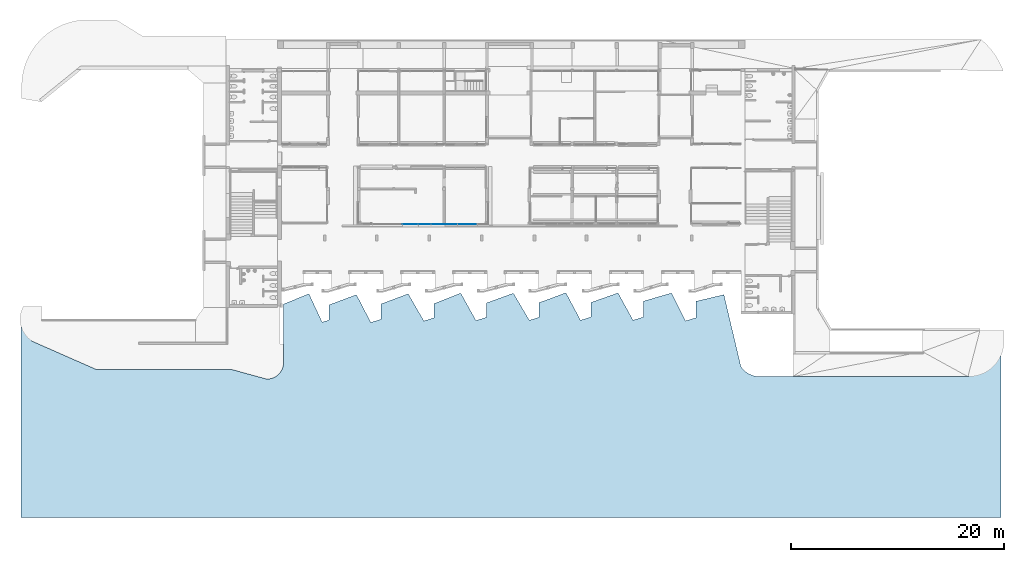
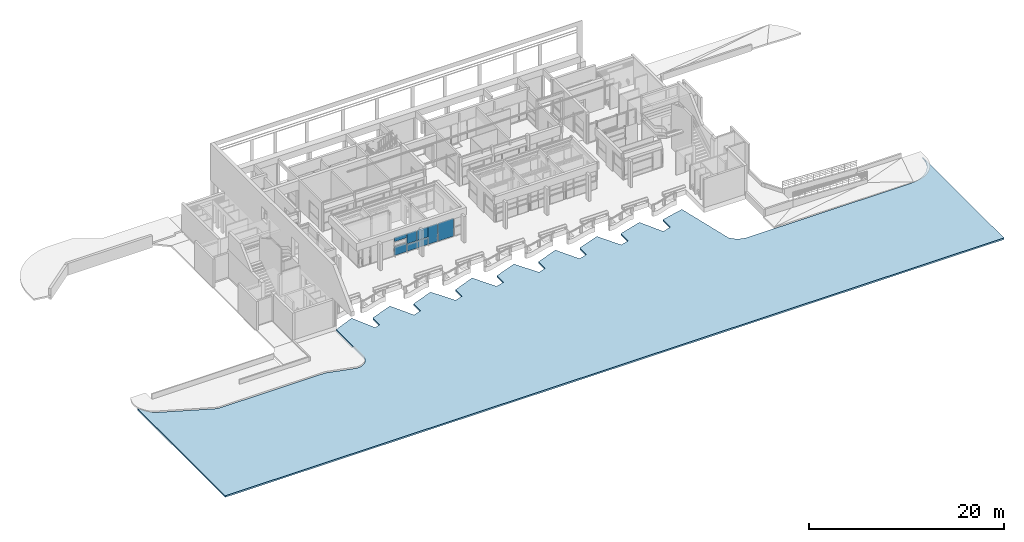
# One storey, part 34 of 117: 7 plates, 1 slab, 1 element without a shape of its own.
"""IFC4 building model written with IfcOpenShell, lengths in metres."""

from ifc_helpers import new_model, entity, si_unit, converted_unit, derived_unit, direction, frame, origin, place, context, subcontext, project, spatial, line, arc, indexed_curve, outline, extrude, source, transform, mapped, material, type_object, type_shapes, element, aggregate, save


model = new_model("IFC4")

# Units and contexts
model_context = context("Model", 3, precision=1e-05, world=origin(), true_north=direction((6.123031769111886e-17, 1.0)))
body_context = subcontext(model_context, "Body", "Model", "MODEL_VIEW")
ifc_project = project(units=[si_unit("LENGTHUNIT", "METRE"), si_unit("AREAUNIT", "SQUARE_METRE"), si_unit("VOLUMEUNIT", "CUBIC_METRE"), converted_unit("PLANEANGLEUNIT", "DEGREE", entity("IfcRatioMeasure", 0.017453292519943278), si_unit("PLANEANGLEUNIT", "RADIAN"), dimensions=[0, 0, 0, 0, 0, 0, 0]), si_unit("MASSUNIT", "GRAM", prefix="KILO"), derived_unit("MASSDENSITYUNIT", [(si_unit("MASSUNIT", "GRAM", prefix="KILO"), 1), (si_unit("LENGTHUNIT", "METRE"), -3)]), derived_unit("MOMENTOFINERTIAUNIT", [(si_unit("LENGTHUNIT", "METRE"), 4)]), si_unit("TIMEUNIT", "SECOND"), si_unit("FREQUENCYUNIT", "HERTZ"), si_unit("THERMODYNAMICTEMPERATUREUNIT", "DEGREE_CELSIUS"), derived_unit("THERMALTRANSMITTANCEUNIT", [(si_unit("MASSUNIT", "GRAM", prefix="KILO"), 1), (si_unit("THERMODYNAMICTEMPERATUREUNIT", "KELVIN"), -1), (si_unit("TIMEUNIT", "SECOND"), -3)]), derived_unit("VOLUMETRICFLOWRATEUNIT", [(si_unit("LENGTHUNIT", "METRE"), 3), (si_unit("TIMEUNIT", "SECOND"), -1)]), derived_unit("MASSFLOWRATEUNIT", [(si_unit("MASSUNIT", "GRAM", prefix="KILO"), 1), (si_unit("TIMEUNIT", "SECOND"), -1)]), derived_unit("ROTATIONALFREQUENCYUNIT", [(si_unit("TIMEUNIT", "SECOND"), -1)]), si_unit("ELECTRICCURRENTUNIT", "AMPERE"), si_unit("ELECTRICVOLTAGEUNIT", "VOLT"), si_unit("POWERUNIT", "WATT"), si_unit("FORCEUNIT", "NEWTON", prefix="KILO"), si_unit("ILLUMINANCEUNIT", "LUX"), si_unit("LUMINOUSFLUXUNIT", "LUMEN"), si_unit("LUMINOUSINTENSITYUNIT", "CANDELA"), derived_unit("USERDEFINED", [(si_unit("MASSUNIT", "GRAM", prefix="KILO"), -1), (si_unit("LENGTHUNIT", "METRE"), -2), (si_unit("TIMEUNIT", "SECOND"), 3), (si_unit("LUMINOUSFLUXUNIT", "LUMEN"), 1)]), derived_unit("SOUNDPOWERUNIT", [(si_unit("MASSUNIT", "GRAM", prefix="KILO"), 1), (si_unit("LENGTHUNIT", "METRE"), 2), (si_unit("TIMEUNIT", "SECOND"), -3)]), derived_unit("SOUNDPRESSUREUNIT", [(si_unit("MASSUNIT", "GRAM", prefix="KILO"), 1), (si_unit("LENGTHUNIT", "METRE"), -1), (si_unit("TIMEUNIT", "SECOND"), -2)]), derived_unit("LINEARVELOCITYUNIT", [(si_unit("LENGTHUNIT", "METRE"), 1), (si_unit("TIMEUNIT", "SECOND"), -1)]), si_unit("PRESSUREUNIT", "PASCAL"), derived_unit("USERDEFINED", [(si_unit("LENGTHUNIT", "METRE"), -2), (si_unit("MASSUNIT", "GRAM", prefix="KILO"), 1), (si_unit("TIMEUNIT", "SECOND"), -2)]), derived_unit("LINEARFORCEUNIT", [(si_unit("MASSUNIT", "GRAM", prefix="KILO"), 1), (si_unit("LENGTHUNIT", "METRE"), 1), (si_unit("TIMEUNIT", "SECOND"), -2), (si_unit("LENGTHUNIT", "METRE"), -1)]), derived_unit("PLANARFORCEUNIT", [(si_unit("MASSUNIT", "GRAM", prefix="KILO"), 1), (si_unit("LENGTHUNIT", "METRE"), 1), (si_unit("TIMEUNIT", "SECOND"), -2), (si_unit("LENGTHUNIT", "METRE"), -2)])], contexts=[model_context])

# Site, building, storey
site_placement = place(None, origin())
site = spatial("IfcSite", under=ifc_project, at=site_placement, Name="Superficie", CompositionType="ELEMENT")
building_placement = place(site_placement, origin())
building = spatial("IfcBuilding", under=site, at=building_placement, CompositionType="ELEMENT")
storey_placement = place(building_placement, origin())
storey = spatial("IfcBuildingStorey", under=building, at=storey_placement, Name="Nivel 0", CompositionType="ELEMENT", Elevation=0.0)

# Slab
ifc_material_1 = material(Name="Suelos por defecto", Category="Genérico")
slab_type = type_object("IfcSlabType", Name="Suelo:Por defecto - 20 cm 2", PredefinedType="FLOOR", material=ifc_material_1)
slab_placement = place(storey_placement, origin())
element("IfcSlab", 1, at=slab_placement, inside=storey, type_object=slab_type, material=ifc_material_1, Name="Suelo:Por defecto - 20 cm 2", ObjectType="Suelo:Por defecto - 20 cm 2", PredefinedType="FLOOR", context=body_context, shape_type="SweptSolid", body=[
    extrude(outline(indexed_curve([(-17.73387077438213, -44.171311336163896), (0.30445306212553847, -44.1713113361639), (-1.1580059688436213, -43.127346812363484), (-3.833870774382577, -37.05047365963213), (-3.8338707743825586, -24.314130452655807), (-4.71830788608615, -21.077725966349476), (-4.363817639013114, -19.997714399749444), (-3.3636823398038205, -19.45751286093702), (2.3157588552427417, -19.45751286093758), (3.2949521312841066, -17.059747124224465), (0.6194303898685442, -15.817135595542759), (0.8219096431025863, -15.157512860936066), (2.251285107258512, -15.157512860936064), (3.20642349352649, -12.589379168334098), (0.5950978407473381, -11.238609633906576), (0.8944149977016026, -10.263515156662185), (2.335110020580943, -10.263515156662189), (3.2917127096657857, -7.717280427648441), (0.735615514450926, -6.244573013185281), (1.026129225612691, -5.298157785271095), (2.36127843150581, -5.298157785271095), (3.3521021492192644, -2.7757842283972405), (0.7738775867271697, -1.3421670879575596), (1.0761292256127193, -0.3575128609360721), (2.4225145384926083, -0.3575128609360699), (3.3463203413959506, 2.1795292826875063), (0.7973534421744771, 3.684310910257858), (1.0761292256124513, 4.592487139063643), (2.4483355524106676, 4.592487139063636), (3.39106203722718, 7.122559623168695), (0.8038775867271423, 8.497832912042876), (1.1061292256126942, 9.482487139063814), (2.4761292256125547, 9.48248713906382), (3.373031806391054, 12.029164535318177), (0.8038775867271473, 13.4378329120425), (1.1061292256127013, 14.422487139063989), (2.6008514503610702, 14.42248713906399), (3.362787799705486, 17.054416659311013), (0.7380086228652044, 18.37885400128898), (1.046129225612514, 19.382627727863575), (2.590562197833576, 19.382627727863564), (3.20739937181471, 21.9906752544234), (-3.565216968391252, 23.59248713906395), (-4.254973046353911, 24.371896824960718), (-4.503870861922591, 25.382487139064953), (-4.50387086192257, 44.55169007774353), (-3.4787445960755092, 47.02656381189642), (-1.0038708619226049, 48.0516900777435), (-17.733870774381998, 48.051690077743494)], segments=[line(1, 2, 3, 4, 5, 6), arc(6, 7, 8), line(8, 9, 10, 11, 12, 13, 14, 15, 16, 17, 18, 19, 20, 21, 22, 23, 24, 25, 26, 27, 28, 29, 30, 31, 32, 33, 34, 35, 36, 37, 38, 39, 40, 41, 42, 43), arc(43, 44, 45), line(45, 46), arc(46, 47, 48), line(48, 49, 1)], self_intersect=False)), frame((-3.005688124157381, -11.610299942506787, -0.7200000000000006), z_axis=(0.0, 0.0, -1.0), x_axis=(0.0, 1.0, 0.0)), (0.0, 0.0, 1.0), 0.2),
])

# Curtain wall, plates
curtain_wall_type = type_object("IfcCurtainWallType", Name="Muro cortina:Muro cortina - simple", PredefinedType="NOTDEFINED")
curtain_wall_placement = place(storey_placement, origin())
curtain_wall = element("IfcCurtainWall", 2, at=curtain_wall_placement, inside=storey, type_object=curtain_wall_type, Name="Muro cortina:Muro cortina - simple", ObjectType="Muro cortina:Muro cortina - simple", PredefinedType="NOTDEFINED")
ifc_material_2 = material(Name="Cristal", Category="Vidrio")
plate_type_1 = type_object("IfcPlateType", Name="Panel de sistema:Acristalado", PredefinedType="CURTAIN_PANEL", material=ifc_material_2)
shared_shape_1 = source(origin(), body_context, "Body", "SweptSolid", [
    extrude(outline(indexed_curve([(-0.675, -0.7149999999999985), (0.2500000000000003, -0.7149999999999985), (0.42500000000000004, -0.7150000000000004), (0.42500000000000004, 0.7149999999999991), (0.25, 0.7149999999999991), (-0.675, 0.7149999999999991), (-0.675, -0.7149999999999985)], self_intersect=False)), frame((0.0, -0.00999999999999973, 0.675), z_axis=(0.0, 1.0, 0.0), x_axis=(0.0, 0.0, 1.0)), (0.0, 0.0, 1.0), 0.02),
])
type_shapes(plate_type_1, [shared_shape_1])
plate_1_placement = place(curtain_wall_placement, frame((-10.52476615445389, -1.764170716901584, 0.05)))
plate_1 = element("IfcPlate", 3, at=plate_1_placement, type_object=plate_type_1, material=ifc_material_2, Name="Panel de sistema:Acristalado", ObjectType="Panel de sistema:Acristalado", PredefinedType="CURTAIN_PANEL", context=body_context, shape_type="MappedRepresentation", body=[
    mapped(shared_shape_1, transform((0.0, 0.0, 0.0), scale=1.0)),
])
plate_type_2 = type_object("IfcPlateType", Name="Panel de sistema:Acristalado", PredefinedType="CURTAIN_PANEL", material=ifc_material_2)
shared_shape_2 = source(origin(), body_context, "Body", "SweptSolid", [
    extrude(outline(indexed_curve([(-0.45, -1.2289123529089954), (0.45, -1.2289123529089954), (0.45, -0.05391235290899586), (0.45, 1.2828247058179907), (-0.45, 1.2828247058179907), (-0.45, -0.05391235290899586), (-0.45, -1.2289123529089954)], self_intersect=False)), frame((-0.026956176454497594, -0.01, 0.45), z_axis=(0.0, 1.0, 0.0), x_axis=(0.0, 0.0, 1.0)), (0.0, 0.0, 1.0), 0.02),
])
type_shapes(plate_type_2, [shared_shape_2])
plate_2_placement = place(curtain_wall_placement, frame((-8.503897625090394, -1.7641707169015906, 0.05)))
plate_2 = element("IfcPlate", 4, at=plate_2_placement, type_object=plate_type_2, material=ifc_material_2, Name="Panel de sistema:Acristalado", ObjectType="Panel de sistema:Acristalado", PredefinedType="CURTAIN_PANEL", context=body_context, shape_type="MappedRepresentation", body=[
    mapped(shared_shape_2, transform((0.0, 0.0, 0.0), scale=1.0)),
])
plate_type_3 = type_object("IfcPlateType", Name="Panel de sistema:Acristalado", PredefinedType="CURTAIN_PANEL", material=ifc_material_2)
shared_shape_3 = source(origin(), body_context, "Body", "SweptSolid", [
    extrude(outline(indexed_curve([(-1.2025000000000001, -0.5624999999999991), (-0.27749999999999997, -0.5624999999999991), (-0.07749999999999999, -0.5625000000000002), (0.5099999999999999, -0.5624999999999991), (1.0475, -0.5624999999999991), (1.0475, 0.5624999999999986), (0.5099999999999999, 0.5624999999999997), (-0.07749999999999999, 0.5624999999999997), (-0.27749999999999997, 0.5624999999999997), (-1.2025000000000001, 0.5624999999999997), (-1.2025000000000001, -0.5624999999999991)], self_intersect=False)), frame((0.0, -0.01, 1.2025000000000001), z_axis=(0.0, 1.0, 0.0), x_axis=(0.0, 0.0, 1.0)), (0.0, 0.0, 1.0), 0.02),
])
type_shapes(plate_type_3, [shared_shape_3])
plate_3_placement = place(curtain_wall_placement, frame((-6.685529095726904, -1.7641707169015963, 0.05)))
plate_3 = element("IfcPlate", 5, at=plate_3_placement, type_object=plate_type_3, material=ifc_material_2, Name="Panel de sistema:Acristalado", ObjectType="Panel de sistema:Acristalado", PredefinedType="CURTAIN_PANEL", context=body_context, shape_type="MappedRepresentation", body=[
    mapped(shared_shape_3, transform((0.0, 0.0, 0.0), scale=1.0)),
])
plate_type_4 = type_object("IfcPlateType", Name="Panel de sistema:Acristalado", PredefinedType="CURTAIN_PANEL", material=ifc_material_2)
shared_shape_4 = source(origin(), body_context, "Body", "SweptSolid", [
    extrude(outline(indexed_curve([(-1.2025000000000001, -0.9199999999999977), (-0.27749999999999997, -0.9199999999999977), (-0.07749999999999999, -0.9199999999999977), (0.5099999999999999, -0.9199999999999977), (1.0475, -0.9199999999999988), (1.0474999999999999, 0.9199999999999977), (0.5099999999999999, 0.9199999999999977), (-0.07749999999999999, 0.9199999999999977), (-0.27749999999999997, 0.9199999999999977), (-1.2025000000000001, 0.9199999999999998), (-1.2025000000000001, -0.9199999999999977)], self_intersect=False)), frame((0.0, -0.01, 1.2025000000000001), z_axis=(0.0, 1.0, 0.0), x_axis=(0.0, 0.0, 1.0)), (0.0, 0.0, 1.0), 0.02),
])
type_shapes(plate_type_4, [shared_shape_4])
plate_4_placement = place(curtain_wall_placement, frame((-5.153029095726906, -1.7641707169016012, 0.05)))
plate_4 = element("IfcPlate", 6, at=plate_4_placement, type_object=plate_type_4, material=ifc_material_2, Name="Panel de sistema:Acristalado", ObjectType="Panel de sistema:Acristalado", PredefinedType="CURTAIN_PANEL", context=body_context, shape_type="MappedRepresentation", body=[
    mapped(shared_shape_4, transform((0.0, 0.0, 0.0), scale=1.0)),
])
plate_type_5 = type_object("IfcPlateType", Name="Panel de sistema:Acristalado", PredefinedType="CURTAIN_PANEL", material=ifc_material_2)
shared_shape_5 = source(origin(), body_context, "Body", "SweptSolid", [
    extrude(outline(indexed_curve([(-0.559375, -0.5749999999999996), (-0.384375, -0.5749999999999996), (0.20312499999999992, -0.5749999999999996), (0.740625, -0.5749999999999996), (0.740625, 0.575), (0.20312499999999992, 0.575), (-0.38437500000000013, 0.5749999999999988), (-0.559375, 0.5749999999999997), (-0.559375, -0.5749999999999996)], self_intersect=False)), frame((0.0, -0.01, 0.559375), z_axis=(0.0, 1.0, 0.0), x_axis=(0.0, 0.0, 1.0)), (0.0, 0.0, 1.0), 0.02),
])
type_shapes(plate_type_5, [shared_shape_5])
plate_5_placement = place(curtain_wall_placement, frame((-9.184766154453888, -1.7641707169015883, 1.0)))
plate_5 = element("IfcPlate", 7, at=plate_5_placement, type_object=plate_type_5, material=ifc_material_2, Name="Panel de sistema:Acristalado", ObjectType="Panel de sistema:Acristalado", PredefinedType="CURTAIN_PANEL", context=body_context, shape_type="MappedRepresentation", body=[
    mapped(shared_shape_5, transform((0.0, 0.0, 0.0), scale=1.0)),
])
plate_type_6 = type_object("IfcPlateType", Name="Panel de sistema:Acristalado", PredefinedType="CURTAIN_PANEL", material=ifc_material_2)
shared_shape_6 = source(origin(), body_context, "Body", "SweptSolid", [
    extrude(outline(indexed_curve([(-0.5593749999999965, -0.6558685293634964), (-0.3843749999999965, -0.6558685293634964), (0.2031250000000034, -0.6558685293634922), (0.7406250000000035, -0.6558685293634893), (0.7406249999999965, 0.6558685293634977), (0.20312499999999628, 0.6558685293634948), (-0.3843750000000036, 0.6558685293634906), (-0.5593750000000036, 0.6558685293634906), (-0.5593749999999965, -0.6558685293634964)], self_intersect=False)), frame((0.0, -0.01, 0.5593750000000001), z_axis=(0.0, 1.0, 0.0), x_axis=(0.0, 0.0, 1.0)), (0.0, 0.0, 1.0), 0.02),
])
type_shapes(plate_type_6, [shared_shape_6])
plate_6_placement = place(curtain_wall_placement, frame((-7.903897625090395, -1.7641707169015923, 1.0)))
plate_6 = element("IfcPlate", 8, at=plate_6_placement, type_object=plate_type_6, material=ifc_material_2, Name="Panel de sistema:Acristalado", ObjectType="Panel de sistema:Acristalado", PredefinedType="CURTAIN_PANEL", context=body_context, shape_type="MappedRepresentation", body=[
    mapped(shared_shape_6, transform((0.0, 0.0, 0.0), scale=1.0)),
])
plate_type_7 = type_object("IfcPlateType", Name="Panel de sistema:Acristalado", PredefinedType="CURTAIN_PANEL", material=ifc_material_2)
shared_shape_7 = source(origin(), body_context, "Body", "SweptSolid", [
    extrude(outline(indexed_curve([(-0.01, -0.7149999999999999), (0.01, -0.7149999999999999), (0.01, 0.7149999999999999), (-0.01, 0.7149999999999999), (-0.01, -0.7149999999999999)], self_intersect=False)), frame((0.0, 0.0, 0.0), z_axis=(0.0, 0.0, 1.0), x_axis=(0.0, 1.0, 0.0)), (0.0, 0.0, 1.0), 0.5125000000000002),
])
type_shapes(plate_type_7, [shared_shape_7])
plate_7_placement = place(curtain_wall_placement, frame((-10.52476615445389, -1.764170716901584, 1.7875)))
plate_7 = element("IfcPlate", 9, at=plate_7_placement, type_object=plate_type_7, material=ifc_material_2, Name="Panel de sistema:Acristalado", ObjectType="Panel de sistema:Acristalado", PredefinedType="CURTAIN_PANEL", context=body_context, shape_type="MappedRepresentation", body=[
    mapped(shared_shape_7, transform((0.0, 0.0, 0.0), scale=1.0)),
])
aggregate(curtain_wall, [plate_1, plate_2, plate_3, plate_4, plate_5, plate_6, plate_7])

save(model, "model.ifc")
